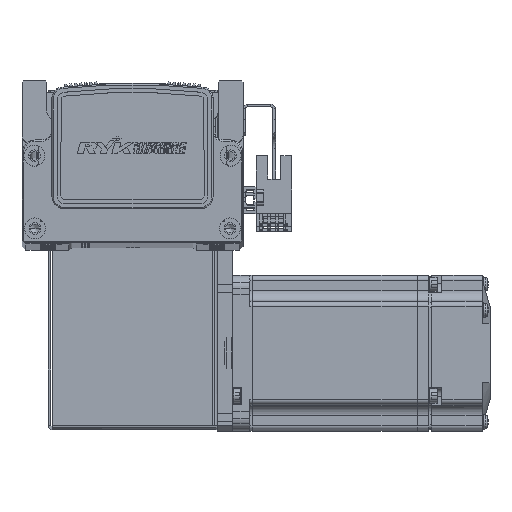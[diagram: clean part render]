
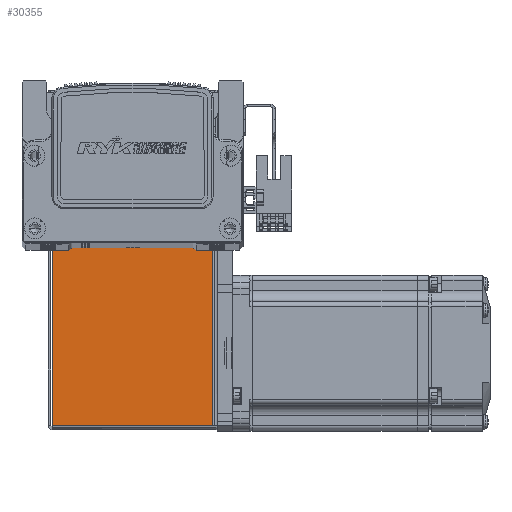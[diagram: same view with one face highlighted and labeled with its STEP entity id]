
A CAD part, top view. The second image highlights one B-rep face of the part: STEP entity #30355.
In plain terms, the highlighted planar face has unit normal (0, 0, 1).
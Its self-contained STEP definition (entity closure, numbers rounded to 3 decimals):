
#820 = FACE_OUTER_BOUND ( 'NONE', #18766, .T. ) ;
#4418 = CARTESIAN_POINT ( 'NONE',  ( 30.763, 0.737, 35. ) ) ;
#13607 = CARTESIAN_POINT ( 'NONE',  ( -30.793, 0.737, 35. ) ) ;
#13665 = CARTESIAN_POINT ( 'NONE',  ( -30.793, 72.5, 35. ) ) ;
#13684 = CARTESIAN_POINT ( 'NONE',  ( 30.763, 0.737, 35. ) ) ;
#13719 = CARTESIAN_POINT ( 'NONE',  ( 30.763, 72.5, 35. ) ) ;
#18766 = EDGE_LOOP ( 'NONE', ( #55021, #55038, #55044, #55020 ) ) ;
#30355 = ADVANCED_FACE ( 'NONE', ( #820 ), #75692, .F. ) ;
#39982 = EDGE_CURVE ( 'NONE', #61643, #61636, #57835, .T. ) ;
#39987 = EDGE_CURVE ( 'NONE', #61608, #61657, #57855, .T. ) ;
#40021 = EDGE_CURVE ( 'NONE', #61636, #61657, #57909, .T. ) ;
#40025 = EDGE_CURVE ( 'NONE', #61643, #61608, #57952, .T. ) ;
#55020 = ORIENTED_EDGE ( 'NONE', *, *, #40025, .F. ) ;
#55021 = ORIENTED_EDGE ( 'NONE', *, *, #39982, .T. ) ;
#55038 = ORIENTED_EDGE ( 'NONE', *, *, #40021, .T. ) ;
#55044 = ORIENTED_EDGE ( 'NONE', *, *, #39987, .F. ) ;
#56673 = DIRECTION ( 'NONE',  ( 0., 1., 0. ) ) ;
#56682 = CARTESIAN_POINT ( 'NONE',  ( -30.793, 0., 35. ) ) ;
#56684 = DIRECTION ( 'NONE',  ( 0., 1., 0. ) ) ;
#56770 = DIRECTION ( 'NONE',  ( -1., 0., 0. ) ) ;
#56771 = DIRECTION ( 'NONE',  ( -1., 0., 0. ) ) ;
#56780 = CARTESIAN_POINT ( 'NONE',  ( 0., 72.5, 35. ) ) ;
#56791 = CARTESIAN_POINT ( 'NONE',  ( -32.5, 0.737, 35. ) ) ;
#57835 = LINE ( 'NONE', #4418, #57836 ) ;
#57836 = VECTOR ( 'NONE', #56684, 1000. ) ;
#57855 = LINE ( 'NONE', #56682, #57912 ) ;
#57909 = LINE ( 'NONE', #56780, #57916 ) ;
#57912 = VECTOR ( 'NONE', #56673, 1000. ) ;
#57916 = VECTOR ( 'NONE', #56771, 1000. ) ;
#57952 = LINE ( 'NONE', #56791, #57971 ) ;
#57971 = VECTOR ( 'NONE', #56770, 1000. ) ;
#61608 = VERTEX_POINT ( 'NONE', #13607 ) ;
#61636 = VERTEX_POINT ( 'NONE', #13719 ) ;
#61643 = VERTEX_POINT ( 'NONE', #13684 ) ;
#61657 = VERTEX_POINT ( 'NONE', #13665 ) ;
#75654 = CARTESIAN_POINT ( 'NONE',  ( 0., 0., 35. ) ) ;
#75670 = DIRECTION ( 'NONE',  ( 0., 0., -1. ) ) ;
#75673 = DIRECTION ( 'NONE',  ( -1., 0., 0. ) ) ;
#75692 = PLANE ( 'NONE',  #77059 ) ;
#77059 = AXIS2_PLACEMENT_3D ( 'NONE', #75654, #75670, #75673 ) ;
